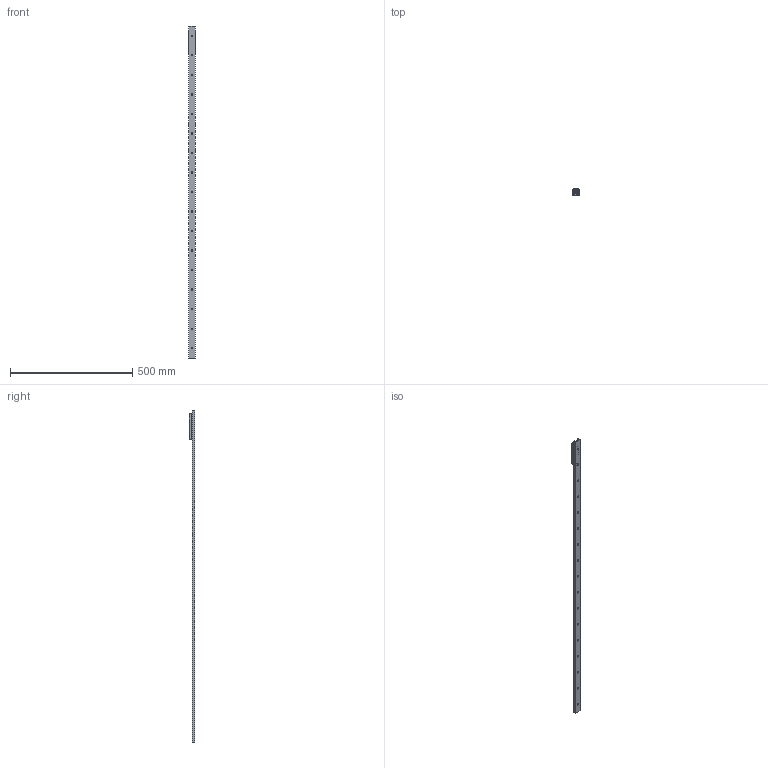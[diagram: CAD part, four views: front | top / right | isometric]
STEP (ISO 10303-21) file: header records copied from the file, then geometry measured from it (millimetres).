
FILE_DESCRIPTION( ( 'STEP AP214' ), '1' );
FILE_NAME( 'p:/temp/worker_24/temp/exporttempdir_5160_79_iclgV/format_0/TGV-01360_1_RV28G-3.stp', '2020-11-20T16:35:32', ( 'License CC BY-ND 4.0' ), ( 'CADENAS' ), ' ', 'PARTsolutions', ' ' );
FILE_SCHEMA( ( 'AUTOMOTIVE_DESIGN { 1 0 10303 214 1 1 1 1 }' ) );
Length unit declared in the file: millimetre
Products named in the file (6): TGV-01360/1/RV28G-3; _TGV28-1360-(3-1); _RV28G-3-slider; _RGNV28R; _RGAV28R; _WR28G-01
Assembly tree (7 placements, depth 2):
  TGV-01360/1/RV28G-3
    _TGV28-1360-(3-1)
    _RV28G-3-slider
    _RGNV28R  x2
    _RGAV28R
    _WR28G-01  x2
Bounding box: 28 x 24 x 1360 mm (x, y, z)
Volume: 232850.9 mm3; surface area: 148181.6 mm2
Topology: 7 solids, 7 shells, 1046 faces, 2730 edges, 1780 vertices
Faces by surface type: plane 657, cylinder 297, cone 57, bspline 26, torus 9
Full cylindrical faces by diameter (mm): 1.27 x4, 2 x2, 2.5 x6, 4 x4, 4.134 x4, 4.2 x3, 5 x3, 5.5 x3, 5.75 x17, 7 x5, 7.5 x1, 8 x6, 10.8 x3, 17 x3, 20.75 x6
Entity records: 25241 total; most frequent: CARTESIAN_POINT 4011, DIRECTION 3370, ORIENTED_EDGE 3096, EDGE_CURVE 1548, AXIS2_PLACEMENT_3D 1290, VERTEX_POINT 1080, EDGE_LOOP 893, LINE 790
